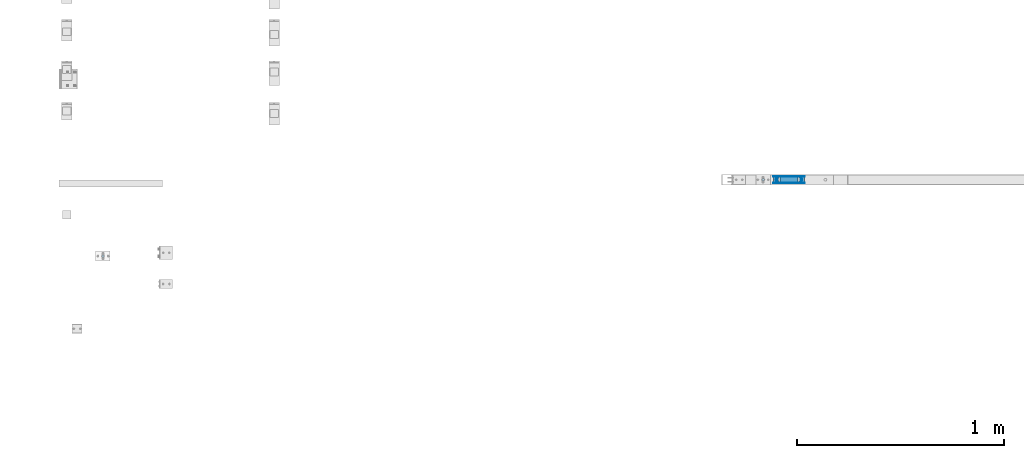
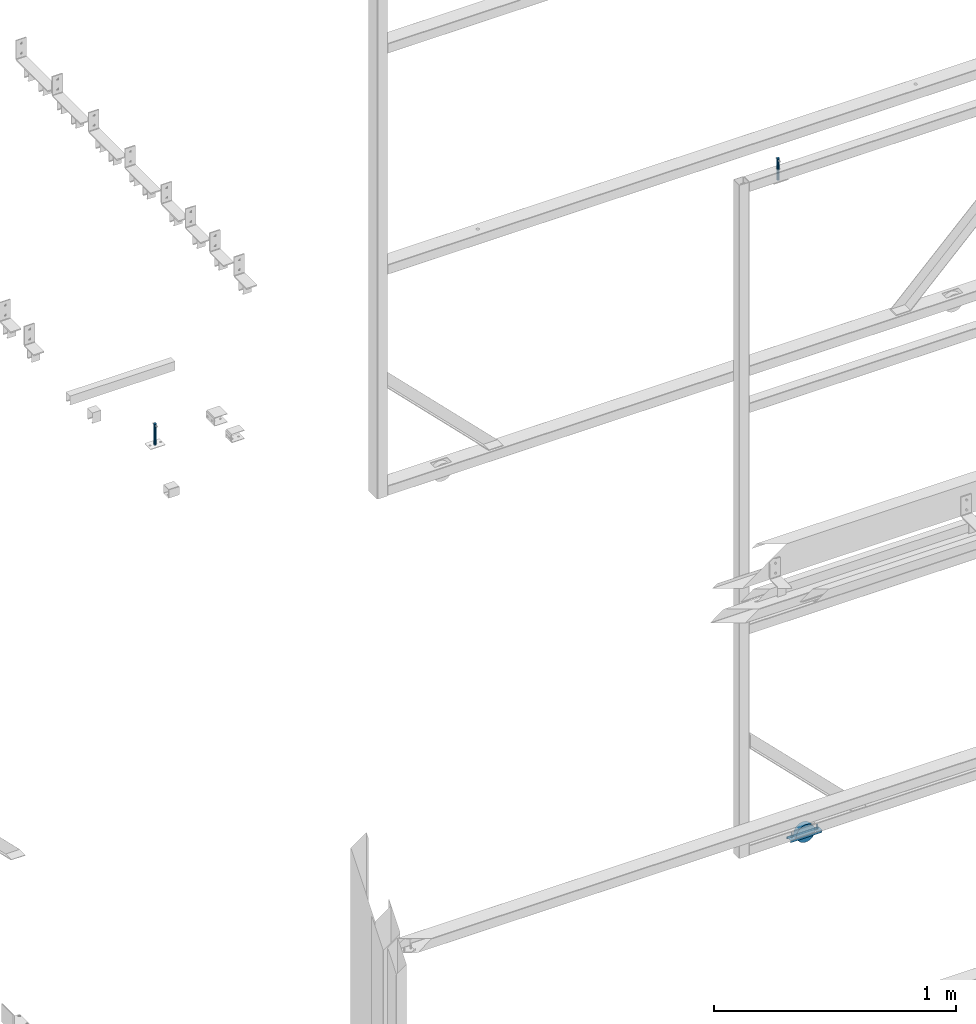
# One storey, part 20 of 91: 6 discrete accessories, 1 mechanical fastener, 2 elements without a shape of their own.
"""IFC2X3 building model written with IfcOpenShell, lengths in millimetres."""

from ifc_helpers import new_model, si_unit, frame, origin_with_axes, origin_2d_with_axis, place, context, subcontext, project, spatial, polyline, circle, outline, extrude, boolean, source, transform, mapped, material, type_object, element, aggregate, save


model = new_model("IFC2X3")

# Units and contexts
model_context = context("Model", 3, precision=1e-05, world=origin_with_axes())
body_context = subcontext(model_context, "Body", "Model", "MODEL_VIEW")
ifc_project = project(units=[si_unit("LENGTHUNIT", "METRE", prefix="MILLI"), si_unit("AREAUNIT", "SQUARE_METRE"), si_unit("VOLUMEUNIT", "CUBIC_METRE"), si_unit("MASSUNIT", "GRAM", prefix="KILO"), si_unit("TIMEUNIT", "SECOND"), si_unit("PLANEANGLEUNIT", "RADIAN"), si_unit("SOLIDANGLEUNIT", "STERADIAN"), si_unit("THERMODYNAMICTEMPERATUREUNIT", "DEGREE_CELSIUS"), si_unit("LUMINOUSINTENSITYUNIT", "LUMEN")], contexts=[model_context])

# Site, building, storey
site_placement = place(None, origin_with_axes())
site = spatial("IfcSite", under=ifc_project, at=site_placement, Name="Undefined", CompositionType="ELEMENT")
building_placement = place(site_placement, origin_with_axes())
building = spatial("IfcBuilding", under=site, at=building_placement, Name="Undefined", CompositionType="ELEMENT")
storey_placement = place(building_placement, origin_with_axes())
storey = spatial("IfcBuildingStorey", under=building, at=storey_placement, Name="Undefined", CompositionType="ELEMENT", Elevation=0.0)

# Assembly, discrete accessories, mechanical fastener
assembly_1_placement = place(storey_placement, origin_with_axes())
assembly_1 = element("IfcElementAssembly", 1, at=assembly_1_placement, inside=storey, Name="Sliding Door Beam", AssemblyPlace="NOTDEFINED", PredefinedType="RIGID_FRAME")
ifc_material_1 = material(Name="STEEL/250")
discrete_accessory_type_1 = type_object("IfcDiscreteAccessoryType", Name="PLATE")
discrete_accessory_1_placement = place(assembly_1_placement, frame((-113388.79, 90364.5, -19.0), z_axis=(0.0, -1.0, 0.0), x_axis=(0.0, 0.0, -1.0)))
discrete_accessory_1 = element("IfcDiscreteAccessory", 2, at=discrete_accessory_1_placement, type_object=discrete_accessory_type_1, material=ifc_material_1, Name="PLATE", ObjectType="PLT2*10", context=body_context, shape_type="SweptSolid", body=[
    extrude(outline(polyline([(0.0, 0.0), (10.0, 0.0), (10.0, 150.0), (0.0, 150.0), (0.0, 0.0)])), frame((0.0, 0.0, -1.0), z_axis=(0.0, 0.0, 1.0), x_axis=(1.0, 0.0, 0.0)), (0.0, 0.0, 1.0), 2.0),
])
discrete_accessory_2_placement = place(assembly_1_placement, frame((-113388.79, 90395.5, -19.0), z_axis=(0.0, -1.0, 0.0), x_axis=(0.0, 0.0, -1.0)))
discrete_accessory_2 = element("IfcDiscreteAccessory", 3, at=discrete_accessory_2_placement, type_object=discrete_accessory_type_1, material=ifc_material_1, Name="PLATE", ObjectType="PLT2*10", context=body_context, shape_type="SweptSolid", body=[
    extrude(outline(polyline([(0.0, 0.0), (10.0, 0.0), (10.0, 150.0), (0.0, 150.0), (0.0, 0.0)])), frame((0.0, 0.0, -1.0), z_axis=(0.0, 0.0, 1.0), x_axis=(1.0, 0.0, 0.0)), (0.0, 0.0, 1.0), 2.0),
])
discrete_accessory_3_placement = place(assembly_1_placement, frame((-113388.79, 90363.5, -18.0), z_axis=(0.0, 0.0, -1.0), x_axis=(0.0, 1.0, 0.0)))
discrete_accessory_3 = element("IfcDiscreteAccessory", 4, at=discrete_accessory_3_placement, type_object=discrete_accessory_type_1, material=ifc_material_1, Name="PLATE", ObjectType="PLT2*33", context=body_context, shape_type="CSG", body=[
    boolean("DIFFERENCE", extrude(outline(polyline([(0.0, 0.0), (33.0, 0.0), (33.0, 150.0), (0.0, 150.0), (0.0, 0.0)])), frame((0.0, 0.0, -1.0), z_axis=(0.0, 0.0, 1.0), x_axis=(1.0, 0.0, 0.0)), (0.0, 0.0, 1.0), 2.0), extrude(outline(polyline([(0.0, 0.0), (27.0, 0.0), (27.0, 100.0), (0.0, 100.0), (0.0, 0.0)])), frame((30.0037103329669, 25.0032500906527, 3.5), z_axis=(0.0, 0.0, -1.0), x_axis=(-1.0, 0.0, 0.0)), (0.0, 0.0, 1.0), 7.0)),
])
ifc_material_2 = material(Name="TEK_11TPIM")
discrete_accessory_type_2 = type_object("IfcDiscreteAccessoryType", Name="Bolt assembly")
shared_shape = source(origin_with_axes(), body_context, "Body", "SweptSolid", [
    extrude(circle(Radius=3.0, at=origin_2d_with_axis()), frame((0.0, 0.0, 0.0), z_axis=(0.0, 1.0, 0.0), x_axis=(1.0, 0.0, 0.0)), (0.0, 0.0, 1.0), 2.1),
    extrude(outline(polyline([(4.61880215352, 0.0), (2.30940107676, 4.00000000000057), (-2.30940107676, 4.00000000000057), (-4.61880215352, 0.0), (-2.30940107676, -4.00000000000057), (2.30940107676, -4.00000000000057), (4.61880215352, 0.0)])), frame((0.0, -5.10000000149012, 0.0), z_axis=(0.0, 1.0, 0.0), x_axis=(1.0, 0.0, 0.0)), (0.0, 0.0, 1.0), 5.0),
    extrude(circle(Radius=3.0, at=origin_2d_with_axis()), frame((0.0, -0.100000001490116, 0.0), z_axis=(0.0, 1.0, 0.0), x_axis=(1.0, 0.0, 0.0)), (0.0, 0.0, 1.0), 25.0),
    extrude(circle(Radius=3.0, at=origin_2d_with_axis()), frame((0.0, -0.100000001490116, 0.0), z_axis=(0.0, 1.0, 0.0), x_axis=(1.0, 0.0, 0.0)), (0.0, 0.0, 1.0), 0.1),
    extrude(circle(Radius=3.0, at=origin_2d_with_axis()), frame((0.0, 2.00000000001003, 0.0), z_axis=(0.0, 1.0, 0.0), x_axis=(1.0, 0.0, 0.0)), (0.0, 0.0, 1.0), 0.1),
    extrude(outline(polyline([(3.46410161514, 0.0), (1.73205080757, 3.00000000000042), (-1.73205080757, 3.00000000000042), (-3.46410161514, 0.0), (-1.73205080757, -3.00000000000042), (1.73205080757, -3.00000000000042), (3.46410161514, 0.0)])), frame((0.0, 2.10000000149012, 0.0), z_axis=(0.0, 1.0, 0.0), x_axis=(1.0, 0.0, 0.0)), (0.0, 0.0, 1.0), 0.1),
])
mechanical_fastener_placement = place(assembly_1_placement, frame((-113253.79, 90380.0, -19.0), z_axis=(0.0, 1.0, 0.0), x_axis=(-1.0, 0.0, 0.0)))
mechanical_fastener = element("IfcMechanicalFastener", 5, at=mechanical_fastener_placement, type_object=discrete_accessory_type_2, material=ifc_material_2, Name="Bolt assembly", NominalDiameter=6.0, NominalLength=25.0, context=body_context, shape_type="MappedRepresentation", body=[
    mapped(shared_shape, transform((0.0, 0.0, 0.0))),
    mapped(shared_shape, transform((120.0, 0.0, 0.0))),
])
discrete_accessory_type_3 = type_object("IfcDiscreteAccessoryType", Name="DB-BU90")
discrete_accessory_4_placement = place(assembly_1_placement, frame((-113313.79, 90392.5009765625, -10.0), z_axis=(1.0, 0.0, 0.0), x_axis=(0.0, -1.0, 0.0)))
discrete_accessory_4 = element("IfcDiscreteAccessory", 6, at=discrete_accessory_4_placement, type_object=discrete_accessory_type_3, material=ifc_material_1, Name="DB-BU90", ObjectType="D88", context=body_context, shape_type="SweptSolid", body=[
    extrude(circle(Radius=44.0, at=origin_2d_with_axis()), frame((25.0, 0.0, 0.0), z_axis=(-1.0, 0.0, 0.0), x_axis=(0.0, -1.0, 0.0)), (0.0, 0.0, 1.0), 25.0),
])
discrete_accessory_type_4 = type_object("IfcDiscreteAccessoryType", Name="ROD")
discrete_accessory_5_placement = place(assembly_1_placement, frame((-113438.79, 90380.0, 3320.0), z_axis=(0.0, 0.0, 1.0), x_axis=(1.0, 0.0, 0.0)))
discrete_accessory_5 = element("IfcDiscreteAccessory", 7, at=discrete_accessory_5_placement, type_object=discrete_accessory_type_4, material=ifc_material_1, Name="ROD", ObjectType="D12", context=body_context, shape_type="CSG", body=[
    boolean("DIFFERENCE", extrude(circle(Radius=6.0, at=origin_2d_with_axis()), frame((0.0, 0.0, 110.0), z_axis=(0.0, 0.0, -1.0), x_axis=(0.0, 1.0, 0.0)), (0.0, 0.0, 1.0), 110.0), extrude(circle(Radius=3.5, at=origin_2d_with_axis()), frame((0.0, 15.0, 101.0), z_axis=(0.0, -1.0, 0.0), x_axis=(0.0, 0.0, -1.0)), (0.0, 0.0, 1.0), 30.0)),
])
aggregate(assembly_1, [mechanical_fastener, discrete_accessory_1, discrete_accessory_2, discrete_accessory_4, discrete_accessory_3, discrete_accessory_5])

# Assembly, discrete accessory
assembly_2_placement = place(storey_placement, origin_with_axes())
assembly_2 = element("IfcElementAssembly", 8, at=assembly_2_placement, inside=storey, Name="PLATE", AssemblyPlace="NOTDEFINED", PredefinedType="RIGID_FRAME")
discrete_accessory_6_placement = place(assembly_2_placement, frame((-116620.84, 90012.15, 3320.0), z_axis=(0.0, 0.0, 1.0), x_axis=(1.0, 0.0, 0.0)))
discrete_accessory_6 = element("IfcDiscreteAccessory", 9, at=discrete_accessory_6_placement, type_object=discrete_accessory_type_4, material=ifc_material_1, Name="ROD", ObjectType="D12", context=body_context, shape_type="CSG", body=[
    boolean("DIFFERENCE", extrude(circle(Radius=6.0, at=origin_2d_with_axis()), frame((0.0, 0.0, 110.0), z_axis=(0.0, 0.0, -1.0), x_axis=(0.0, 1.0, 0.0)), (0.0, 0.0, 1.0), 110.0), extrude(circle(Radius=3.5, at=origin_2d_with_axis()), frame((0.0, 15.0, 101.0), z_axis=(0.0, -1.0, 0.0), x_axis=(0.0, 0.0, -1.0)), (0.0, 0.0, 1.0), 30.0)),
])
aggregate(assembly_2, [discrete_accessory_6])

save(model, "model.ifc")
